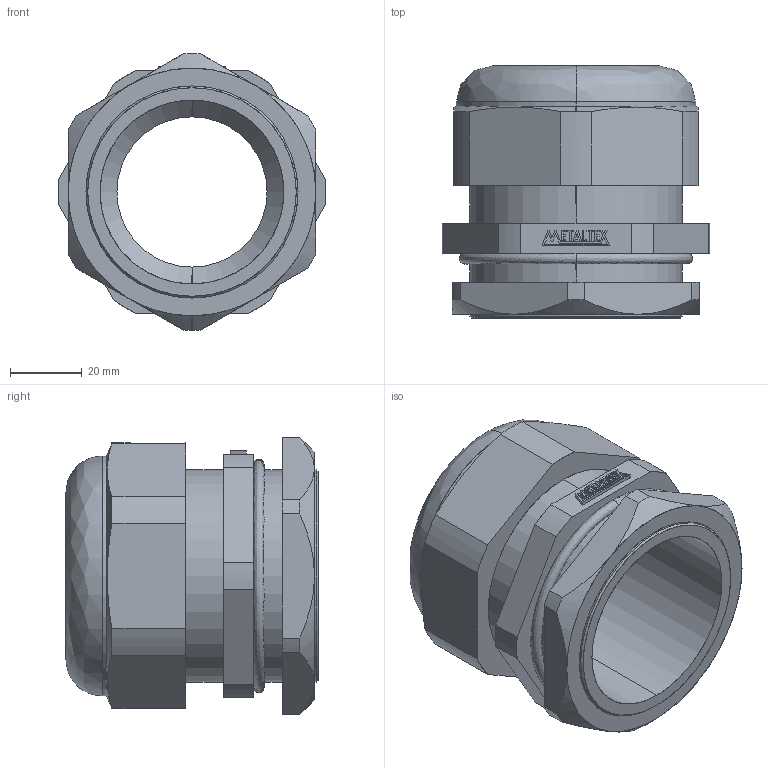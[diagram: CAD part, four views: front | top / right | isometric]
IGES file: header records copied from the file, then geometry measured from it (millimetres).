
Start section: SolidWorks IGES file using analytic representation for surfaces
Global section: file name: D:\X - Arquivos\PROEX\Empresas\P11 - METALTEX\01 - Produtos\IGES\Terceira remessa\Etapa 2\CH-PG48.IGS; native system: SolidWorks 2012; preprocessor: SolidWorks 2012; author: Usuario; date: 180207.123402; units: millimetre
Bounding box: 74.75 x 70.5 x 77.49 mm (x, y, z)
Surface area: 35173.1 mm2 (no closed solid volume)
Topology: 0 solids, 0 shells, 174 faces, 1654 edges, 1654 vertices
Faces by surface type: bspline 125, revolution 49
